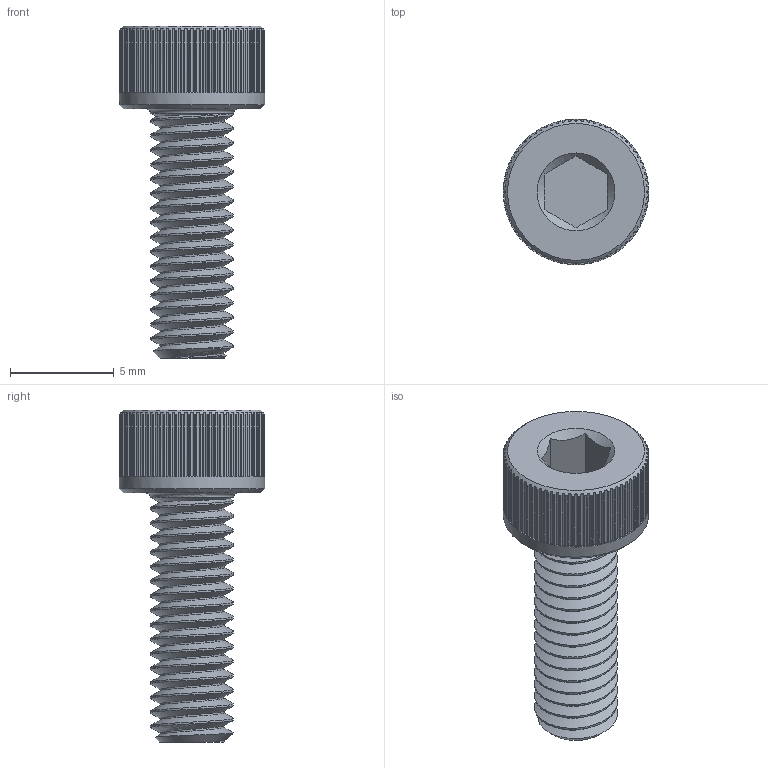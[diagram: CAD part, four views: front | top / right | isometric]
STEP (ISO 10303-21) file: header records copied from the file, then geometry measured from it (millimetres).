
FILE_DESCRIPTION(/* description */ ('STEP AP242 Edition 2','CAx-IF Rec.Pracs.---Representation and Presentation of Product Manufacturing Information (PMI)---4.0---2014-10-13','CAx-IF Rec.Pracs.---3D Tessellated Geometry---0.4---2014-09-14','2;1','CAx-IF Rec.Pracs.---User Defined Attributes---1.5---2016-08-15'),/* implementation_level */ '2;1');
FILE_NAME(/* name */ 'Assembly 1 - m4-12',/* time_stamp */ '2026-09-25T20:07:25Z',/* author */ (''),/* organization */ (''),/* preprocessor_version */ 'ST-DEVELOPER v20',/* originating_system */ 'ONSHAPE BY PTC INC, 1.221',/* authorisation */ ' ');
FILE_SCHEMA (('AP242_MANAGED_MODEL_BASED_3D_ENGINEERING_MIM_LF { 1 0 10303 442 3 1 4 }'));
Length unit declared in the file: metre
Products named in the file (1): m4*12
Bounding box: 7 x 7 x 16 mm (x, y, z)
Volume: 242.5 mm3; surface area: 427.1 mm2
Topology: 1 solids, 1 shells, 309 faces, 982 edges, 677 vertices
Faces by surface type: plane 226, cylinder 75, cone 5, bspline 2, torus 1
Full cylindrical faces by diameter (mm): 7 x1
Entity records: 15340 total; most frequent: CARTESIAN_POINT 7014, ORIENTED_EDGE 1946, DIRECTION 1510, EDGE_CURVE 973, VERTEX_POINT 673, AXIS2_PLACEMENT_3D 533, LINE 444, VECTOR 444
